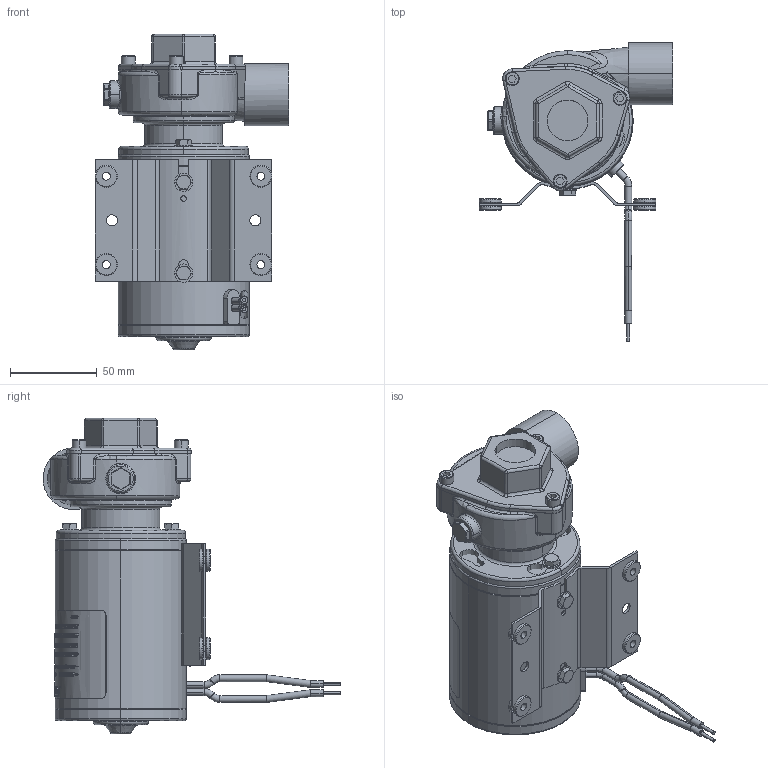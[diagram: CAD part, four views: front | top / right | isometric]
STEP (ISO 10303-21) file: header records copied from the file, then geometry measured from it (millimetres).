
FILE_DESCRIPTION (( 'STEP AP214' ), '1' );
FILE_NAME ('9700B.STEP', '2019-06-20T17:48:14', ( '' ), ( '' ), 'SwSTEP 2.0', 'SolidWorks 2017', '' );
FILE_SCHEMA (( 'AUTOMOTIVE_DESIGN' ));
Length unit declared in the file: inch
Products named in the file (1): 9700B
Bounding box: 111.25 x 171.32 x 181.48 mm (x, y, z)
Volume: 529880.5 mm3; surface area: 114895.4 mm2
Topology: 21 solids, 22 shells, 3195 faces, 8113 edges, 5231 vertices
Faces by surface type: plane 1480, bspline 666, cylinder 588, cone 342, torus 112, sphere 7
Entity records: 180848 total; most frequent: CARTESIAN_POINT 68704, ORIENTED_EDGE 16218, DIRECTION 12676, EDGE_CURVE 8109, VERTEX_POINT 5229, AXIS2_PLACEMENT_3D 4840, EDGE_LOOP 3494, DIMENSIONAL_EXPONENTS 3214
